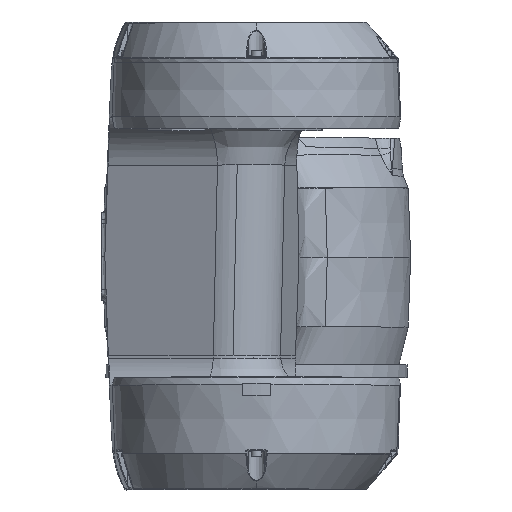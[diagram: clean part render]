
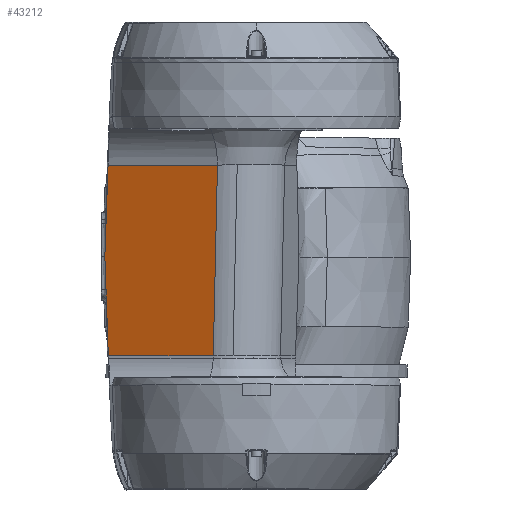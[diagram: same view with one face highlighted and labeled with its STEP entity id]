
A CAD part, top view. The second image highlights one B-rep face of the part: STEP entity #43212.
In plain terms, the highlighted planar face has unit normal (-0.397, -0.035, 0.917).
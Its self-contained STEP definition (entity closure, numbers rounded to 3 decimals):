
#1424 = FACE_OUTER_BOUND ( 'NONE', #24344, .T. ) ;
#4464 = VERTEX_POINT ( 'NONE', #53221 ) ;
#5017 = VERTEX_POINT ( 'NONE', #53210 ) ;
#5434 = VERTEX_POINT ( 'NONE', #53722 ) ;
#5487 = VERTEX_POINT ( 'NONE', #53981 ) ;
#5953 = VERTEX_POINT ( 'NONE', #63705 ) ;
#6236 = VERTEX_POINT ( 'NONE', #63491 ) ;
#6255 = VERTEX_POINT ( 'NONE', #64258 ) ;
#6472 = VERTEX_POINT ( 'NONE', #64655 ) ;
#9917 = CARTESIAN_POINT ( 'NONE',  ( -76.115, -3.962, 671.872 ) ) ;
#9918 = DIRECTION ( 'NONE',  ( -0.035, 0.999, 0.023 ) ) ;
#10124 = CARTESIAN_POINT ( 'NONE',  ( -76.581, -9.299, 671.468 ) ) ;
#10125 = DIRECTION ( 'NONE',  ( -0.035, -0.998, -0.053 ) ) ;
#12424 = DIRECTION ( 'NONE',  ( -0.918, 0., -0.397 ) ) ;
#12425 = CARTESIAN_POINT ( 'NONE',  ( 5.693, -50., 705.497 ) ) ;
#16153 = EDGE_CURVE ( 'NONE', #5953, #6236, #20927, .T. ) ;
#20415 = VERTEX_POINT ( 'NONE', #56802 ) ;
#20551 = VERTEX_POINT ( 'NONE', #56935 ) ;
#20927 = LINE ( 'NONE', #12425, #20936 ) ;
#20936 = VECTOR ( 'NONE', #12424, 1000. ) ;
#24344 = EDGE_LOOP ( 'NONE', ( #38050, #37720, #38766, #38769, #38467, #38384, #38986, #38805, #38431, #39362 ) ) ;
#25802 = CARTESIAN_POINT ( 'NONE',  ( 5., 0., 707.1 ) ) ;
#25804 = PLANE ( 'NONE',  #65521 ) ;
#25807 = DIRECTION ( 'NONE',  ( 0.397, 0.035, -0.917 ) ) ;
#25808 = DIRECTION ( 'NONE',  ( -0.918, 0., -0.397 ) ) ;
#32445 = CARTESIAN_POINT ( 'NONE',  ( -76.581, -9.299, 671.468 ) ) ;
#32454 = CARTESIAN_POINT ( 'NONE',  ( -76.115, -3.962, 671.872 ) ) ;
#32457 = DIRECTION ( 'NONE',  ( -0.035, 0.999, 0.023 ) ) ;
#32458 = CARTESIAN_POINT ( 'NONE',  ( -76.115, -3.962, 671.872 ) ) ;
#32459 = DIRECTION ( 'NONE',  ( -0.035, 0.999, 0.023 ) ) ;
#32460 = CARTESIAN_POINT ( 'NONE',  ( -76.581, -9.299, 671.468 ) ) ;
#32462 = DIRECTION ( 'NONE',  ( -0.035, -0.998, -0.053 ) ) ;
#32463 = DIRECTION ( 'NONE',  ( -0.035, -0.998, -0.053 ) ) ;
#32464 = CARTESIAN_POINT ( 'NONE',  ( 4.364, 45.872, 708.57 ) ) ;
#32465 = DIRECTION ( 'NONE',  ( -0.918, 0., -0.397 ) ) ;
#32466 = CARTESIAN_POINT ( 'NONE',  ( -20.618, 1.088, 696.063 ) ) ;
#32467 = DIRECTION ( 'NONE',  ( 0.022, 0.999, 0.047 ) ) ;
#32468 = CARTESIAN_POINT ( 'NONE',  ( -75.024, -50., 670.593 ) ) ;
#32469 = DIRECTION ( 'NONE',  ( -0.918, 0., -0.397 ) ) ;
#37720 = ORIENTED_EDGE ( 'NONE', *, *, #56768, .T. ) ;
#38050 = ORIENTED_EDGE ( 'NONE', *, *, #56771, .F. ) ;
#38384 = ORIENTED_EDGE ( 'NONE', *, *, #56761, .T. ) ;
#38431 = ORIENTED_EDGE ( 'NONE', *, *, #57110, .F. ) ;
#38467 = ORIENTED_EDGE ( 'NONE', *, *, #56764, .T. ) ;
#38766 = ORIENTED_EDGE ( 'NONE', *, *, #56766, .T. ) ;
#38769 = ORIENTED_EDGE ( 'NONE', *, *, #57192, .T. ) ;
#38805 = ORIENTED_EDGE ( 'NONE', *, *, #56757, .F. ) ;
#38986 = ORIENTED_EDGE ( 'NONE', *, *, #56759, .F. ) ;
#39362 = ORIENTED_EDGE ( 'NONE', *, *, #16153, .F. ) ;
#43212 = ADVANCED_FACE ( 'NONE', ( #1424 ), #25804, .F. ) ;
#53210 = CARTESIAN_POINT ( 'NONE',  ( -75.671, -16.752, 671.578 ) ) ;
#53221 = CARTESIAN_POINT ( 'NONE',  ( -76.253, 0., 671.964 ) ) ;
#53722 = CARTESIAN_POINT ( 'NONE',  ( -75.66, 16.808, 672.86 ) ) ;
#53981 = CARTESIAN_POINT ( 'NONE',  ( -19.634, 45.872, 698.193 ) ) ;
#55341 = LINE ( 'NONE', #32454, #55344 ) ;
#55342 = LINE ( 'NONE', #32445, #55350 ) ;
#55343 = LINE ( 'NONE', #32458, #55346 ) ;
#55344 = VECTOR ( 'NONE', #32457, 1000. ) ;
#55345 = LINE ( 'NONE', #32460, #55348 ) ;
#55346 = VECTOR ( 'NONE', #32459, 1000. ) ;
#55348 = VECTOR ( 'NONE', #32462, 1000. ) ;
#55349 = LINE ( 'NONE', #32464, #55352 ) ;
#55350 = VECTOR ( 'NONE', #32463, 1000. ) ;
#55351 = LINE ( 'NONE', #32466, #55354 ) ;
#55352 = VECTOR ( 'NONE', #32465, 1000. ) ;
#55353 = LINE ( 'NONE', #32468, #55356 ) ;
#55354 = VECTOR ( 'NONE', #32467, 1000. ) ;
#55356 = VECTOR ( 'NONE', #32469, 1000. ) ;
#55425 = LINE ( 'NONE', #9917, #55426 ) ;
#55426 = VECTOR ( 'NONE', #9918, 1000. ) ;
#55452 = LINE ( 'NONE', #10124, #55453 ) ;
#55453 = VECTOR ( 'NONE', #10125, 1000. ) ;
#56757 = EDGE_CURVE ( 'NONE', #20551, #5017, #55341, .T. ) ;
#56759 = EDGE_CURVE ( 'NONE', #5017, #4464, #55343, .T. ) ;
#56761 = EDGE_CURVE ( 'NONE', #5434, #4464, #55345, .T. ) ;
#56764 = EDGE_CURVE ( 'NONE', #6472, #5434, #55342, .T. ) ;
#56766 = EDGE_CURVE ( 'NONE', #5487, #6255, #55349, .T. ) ;
#56768 = EDGE_CURVE ( 'NONE', #20415, #5487, #55351, .T. ) ;
#56771 = EDGE_CURVE ( 'NONE', #20415, #5953, #55353, .T. ) ;
#56802 = CARTESIAN_POINT ( 'NONE',  ( -21.741, -50., 693.634 ) ) ;
#56935 = CARTESIAN_POINT ( 'NONE',  ( -75.489, -21.969, 671.458 ) ) ;
#57110 = EDGE_CURVE ( 'NONE', #6236, #20551, #55425, .T. ) ;
#57192 = EDGE_CURVE ( 'NONE', #6255, #6472, #55452, .T. ) ;
#63491 = CARTESIAN_POINT ( 'NONE',  ( -74.515, -50., 670.813 ) ) ;
#63705 = CARTESIAN_POINT ( 'NONE',  ( -74.34, -50., 670.889 ) ) ;
#64258 = CARTESIAN_POINT ( 'NONE',  ( -74.634, 45.872, 674.409 ) ) ;
#64655 = CARTESIAN_POINT ( 'NONE',  ( -75.57, 19.34, 672.995 ) ) ;
#65521 = AXIS2_PLACEMENT_3D ( 'NONE', #25802, #25807, #25808 ) ;
